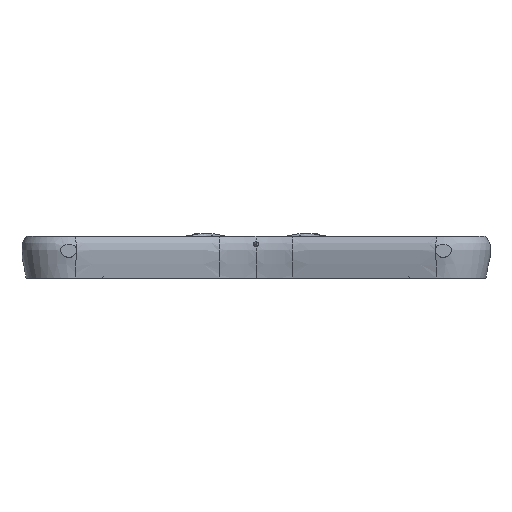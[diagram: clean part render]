
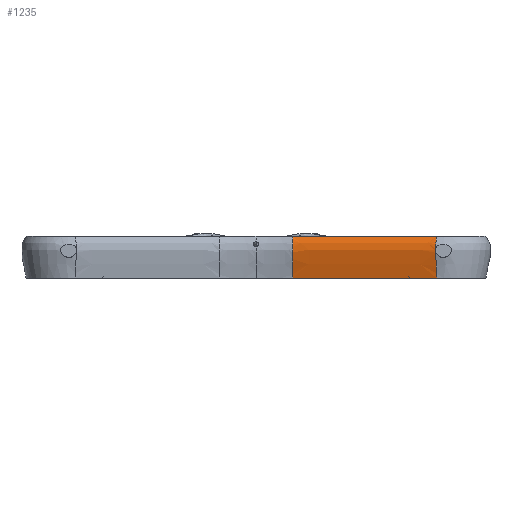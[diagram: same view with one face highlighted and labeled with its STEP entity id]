
A CAD part, left-side view. The second image highlights one B-rep face of the part: STEP entity #1235.
In plain terms, the highlighted free-form (B-spline) face has degree [9, 3] with [10, 4] control points.
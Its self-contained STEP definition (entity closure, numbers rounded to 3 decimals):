
#1107 = VERTEX_POINT('',#1108);
#1108 = CARTESIAN_POINT('',(-79.432,-14.079,0.));
#1117 = EDGE_CURVE('',#1107,#1118,#1120,.T.);
#1118 = VERTEX_POINT('',#1119);
#1119 = CARTESIAN_POINT('',(-79.432,-14.079,16.));
#1120 = ( BOUNDED_CURVE() B_SPLINE_CURVE(3,(#1121,#1122,#1123,#1124),
.UNSPECIFIED.,.F.,.F.) B_SPLINE_CURVE_WITH_KNOTS((4,4),(0.,1.),
.PIECEWISE_BEZIER_KNOTS.) CURVE() GEOMETRIC_REPRESENTATION_ITEM() 
RATIONAL_B_SPLINE_CURVE((1.,1.,1.,1.)) REPRESENTATION_ITEM('') );
#1121 = CARTESIAN_POINT('',(-79.432,-14.079,0.));
#1122 = CARTESIAN_POINT('',(-79.648,-14.079,
    4.758));
#1123 = CARTESIAN_POINT('',(-83.57,-14.079,
    11.435));
#1124 = CARTESIAN_POINT('',(-79.432,-14.079,16.));
#1235 = ADVANCED_FACE('',(#1236),#1298,.T.);
#1236 = FACE_BOUND('',#1237,.T.);
#1237 = EDGE_LOOP('',(#1238,#1239,#1247,#1256,#1283,#1292));
#1238 = ORIENTED_EDGE('',*,*,#1117,.F.);
#1239 = ORIENTED_EDGE('',*,*,#1240,.T.);
#1240 = EDGE_CURVE('',#1107,#1241,#1243,.T.);
#1241 = VERTEX_POINT('',#1242);
#1242 = CARTESIAN_POINT('',(-88.2,-69.434,0.));
#1243 = LINE('',#1244,#1245);
#1244 = CARTESIAN_POINT('',(-79.432,-14.079,0.));
#1245 = VECTOR('',#1246,1.);
#1246 = DIRECTION('',(-0.156,-0.988,-0.));
#1247 = ORIENTED_EDGE('',*,*,#1248,.T.);
#1248 = EDGE_CURVE('',#1241,#1249,#1251,.T.);
#1249 = VERTEX_POINT('',#1250);
#1250 = CARTESIAN_POINT('',(-90.,-69.149,9.712));
#1251 = ( BOUNDED_CURVE() B_SPLINE_CURVE(3,(#1252,#1253,#1254,#1255),
.UNSPECIFIED.,.F.,.F.) B_SPLINE_CURVE_WITH_KNOTS((4,4),(0.,1.),
.PIECEWISE_BEZIER_KNOTS.) CURVE() GEOMETRIC_REPRESENTATION_ITEM() 
RATIONAL_B_SPLINE_CURVE((1.,1.,1.,1.)) REPRESENTATION_ITEM('') );
#1252 = CARTESIAN_POINT('',(-88.2,-69.434,0.));
#1253 = CARTESIAN_POINT('',(-88.41,-69.401,
    4.758));
#1254 = CARTESIAN_POINT('',(-92.236,-68.795,
    11.435));
#1255 = CARTESIAN_POINT('',(-88.2,-69.434,16.));
#1256 = ORIENTED_EDGE('',*,*,#1257,.T.);
#1257 = EDGE_CURVE('',#1249,#1258,#1260,.T.);
#1258 = VERTEX_POINT('',#1259);
#1259 = CARTESIAN_POINT('',(-90.,-69.149,11.684));
#1260 = B_SPLINE_CURVE_WITH_KNOTS('',6,(#1261,#1262,#1263,#1264,#1265,
    #1266,#1267,#1268,#1269,#1270,#1271,#1272,#1273,#1274,#1275,#1276,
    #1277,#1278,#1279,#1280,#1281,#1282),.UNSPECIFIED.,.F.,.F.,(7,5,5,5,
    7),(0.,0.262,0.386,0.624,1.),
  .UNSPECIFIED.);
#1261 = CARTESIAN_POINT('',(-90.,-69.149,9.712));
#1262 = CARTESIAN_POINT('',(-90.,-69.108,9.793));
#1263 = CARTESIAN_POINT('',(-90.,-69.07,9.874));
#1264 = CARTESIAN_POINT('',(-90.,-69.035,9.958));
#1265 = CARTESIAN_POINT('',(-90.,-69.004,10.043));
#1266 = CARTESIAN_POINT('',(-90.,-68.976,10.129));
#1267 = CARTESIAN_POINT('',(-90.,-68.941,10.257));
#1268 = CARTESIAN_POINT('',(-90.,-68.931,10.298));
#1269 = CARTESIAN_POINT('',(-90.,-68.922,10.34));
#1270 = CARTESIAN_POINT('',(-90.,-68.914,10.382));
#1271 = CARTESIAN_POINT('',(-90.,-68.906,10.424));
#1272 = CARTESIAN_POINT('',(-90.,-68.889,10.547));
#1273 = CARTESIAN_POINT('',(-90.,-68.881,10.629));
#1274 = CARTESIAN_POINT('',(-90.,-68.878,10.711));
#1275 = CARTESIAN_POINT('',(-90.,-68.879,10.793));
#1276 = CARTESIAN_POINT('',(-90.,-68.884,10.875));
#1277 = CARTESIAN_POINT('',(-90.,-68.911,11.085));
#1278 = CARTESIAN_POINT('',(-90.,-68.938,11.212));
#1279 = CARTESIAN_POINT('',(-90.,-68.977,11.336));
#1280 = CARTESIAN_POINT('',(-90.,-69.026,11.456));
#1281 = CARTESIAN_POINT('',(-90.,-69.084,11.572));
#1282 = CARTESIAN_POINT('',(-90.,-69.149,11.684));
#1283 = ORIENTED_EDGE('',*,*,#1284,.T.);
#1284 = EDGE_CURVE('',#1258,#1285,#1287,.T.);
#1285 = VERTEX_POINT('',#1286);
#1286 = CARTESIAN_POINT('',(-88.2,-69.434,16.));
#1287 = ( BOUNDED_CURVE() B_SPLINE_CURVE(3,(#1288,#1289,#1290,#1291),
.UNSPECIFIED.,.F.,.F.) B_SPLINE_CURVE_WITH_KNOTS((4,4),(0.,1.),
.PIECEWISE_BEZIER_KNOTS.) CURVE() GEOMETRIC_REPRESENTATION_ITEM() 
RATIONAL_B_SPLINE_CURVE((1.,1.,1.,1.)) REPRESENTATION_ITEM('') );
#1288 = CARTESIAN_POINT('',(-88.2,-69.434,0.));
#1289 = CARTESIAN_POINT('',(-88.41,-69.401,
    4.758));
#1290 = CARTESIAN_POINT('',(-92.236,-68.795,
    11.435));
#1291 = CARTESIAN_POINT('',(-88.2,-69.434,16.));
#1292 = ORIENTED_EDGE('',*,*,#1293,.F.);
#1293 = EDGE_CURVE('',#1118,#1285,#1294,.T.);
#1294 = LINE('',#1295,#1296);
#1295 = CARTESIAN_POINT('',(-79.432,-14.079,16.));
#1296 = VECTOR('',#1297,1.);
#1297 = DIRECTION('',(-0.156,-0.988,-0.));
#1298 = ( BOUNDED_SURFACE() B_SPLINE_SURFACE(9,3,(
    (#1299,#1300,#1301,#1302)
    ,(#1303,#1304,#1305,#1306)
    ,(#1307,#1308,#1309,#1310)
    ,(#1311,#1312,#1313,#1314)
    ,(#1315,#1316,#1317,#1318)
    ,(#1319,#1320,#1321,#1322)
    ,(#1323,#1324,#1325,#1326)
    ,(#1327,#1328,#1329,#1330)
    ,(#1331,#1332,#1333,#1334)
    ,(#1335,#1336,#1337,#1338
)),.UNSPECIFIED.,.F.,.F.,.F.) B_SPLINE_SURFACE_WITH_KNOTS((10,10),(4,4),
  (0.,1.),(0.,1.),.PIECEWISE_BEZIER_KNOTS.) 
GEOMETRIC_REPRESENTATION_ITEM() RATIONAL_B_SPLINE_SURFACE((
    (1.,1.,1.,1.)
    ,(1.,1.,1.,1.)
    ,(1.,1.,1.,1.)
    ,(1.,1.,1.,1.)
    ,(1.,1.,1.,1.)
    ,(1.,1.,1.,1.)
    ,(1.,1.,1.,1.)
    ,(1.,1.,1.,1.)
    ,(1.,1.,1.,1.)
,(1.,1.,1.,1.))) REPRESENTATION_ITEM('') SURFACE() );
#1299 = CARTESIAN_POINT('',(-79.432,-14.079,0.));
#1300 = CARTESIAN_POINT('',(-79.648,-14.079,
    4.758));
#1301 = CARTESIAN_POINT('',(-83.57,-14.079,
    11.435));
#1302 = CARTESIAN_POINT('',(-79.432,-14.079,16.));
#1303 = CARTESIAN_POINT('',(-80.407,-20.23,0.));
#1304 = CARTESIAN_POINT('',(-80.621,-20.226,
    4.758));
#1305 = CARTESIAN_POINT('',(-84.533,-20.159,
    11.435));
#1306 = CARTESIAN_POINT('',(-80.407,-20.23,16.));
#1307 = CARTESIAN_POINT('',(-81.381,-26.38,0.));
#1308 = CARTESIAN_POINT('',(-81.595,-26.373,
    4.758));
#1309 = CARTESIAN_POINT('',(-85.496,-26.238,
    11.435));
#1310 = CARTESIAN_POINT('',(-81.381,-26.38,16.));
#1311 = CARTESIAN_POINT('',(-82.355,-32.531,0.));
#1312 = CARTESIAN_POINT('',(-82.569,-32.52,
    4.758));
#1313 = CARTESIAN_POINT('',(-86.459,-32.318,
    11.435));
#1314 = CARTESIAN_POINT('',(-82.355,-32.531,16.));
#1315 = CARTESIAN_POINT('',(-83.329,-38.681,0.));
#1316 = CARTESIAN_POINT('',(-83.542,-38.667,
    4.758));
#1317 = CARTESIAN_POINT('',(-87.422,-38.397,
    11.435));
#1318 = CARTESIAN_POINT('',(-83.329,-38.681,16.));
#1319 = CARTESIAN_POINT('',(-84.303,-44.832,0.));
#1320 = CARTESIAN_POINT('',(-84.516,-44.813,
    4.758));
#1321 = CARTESIAN_POINT('',(-88.385,-44.477,
    11.435));
#1322 = CARTESIAN_POINT('',(-84.303,-44.832,16.));
#1323 = CARTESIAN_POINT('',(-85.277,-50.983,0.));
#1324 = CARTESIAN_POINT('',(-85.489,-50.96,
    4.758));
#1325 = CARTESIAN_POINT('',(-89.348,-50.556,
    11.435));
#1326 = CARTESIAN_POINT('',(-85.277,-50.983,16.));
#1327 = CARTESIAN_POINT('',(-86.251,-57.133,0.));
#1328 = CARTESIAN_POINT('',(-86.463,-57.107,
    4.758));
#1329 = CARTESIAN_POINT('',(-90.311,-56.636,
    11.435));
#1330 = CARTESIAN_POINT('',(-86.251,-57.133,16.));
#1331 = CARTESIAN_POINT('',(-87.226,-63.284,0.));
#1332 = CARTESIAN_POINT('',(-87.436,-63.254,
    4.758));
#1333 = CARTESIAN_POINT('',(-91.273,-62.715,
    11.435));
#1334 = CARTESIAN_POINT('',(-87.226,-63.284,16.));
#1335 = CARTESIAN_POINT('',(-88.2,-69.434,0.));
#1336 = CARTESIAN_POINT('',(-88.41,-69.401,
    4.758));
#1337 = CARTESIAN_POINT('',(-92.236,-68.795,
    11.435));
#1338 = CARTESIAN_POINT('',(-88.2,-69.434,16.));
